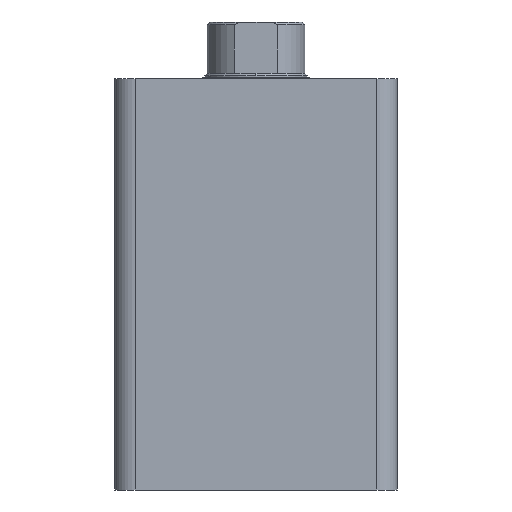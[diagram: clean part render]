
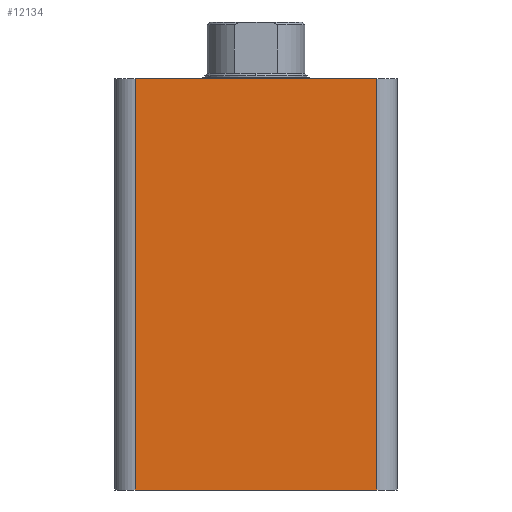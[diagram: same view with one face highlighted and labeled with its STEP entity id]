
A CAD part, front view. The second image highlights one B-rep face of the part: STEP entity #12134.
In plain terms, the highlighted planar face has unit normal (0, -1, 0).
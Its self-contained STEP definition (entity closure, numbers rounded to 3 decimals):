
#338 = LINE ( 'NONE', #3470, #4257 ) ;
#1013 = LINE ( 'NONE', #3908, #7379 ) ;
#1052 = EDGE_CURVE ( 'NONE', #3612, #11086, #2477, .T. ) ;
#1292 = ORIENTED_EDGE ( 'NONE', *, *, #11191, .T. ) ;
#1409 = DIRECTION ( 'NONE',  ( 1., 0., 0. ) ) ;
#1959 = DIRECTION ( 'NONE',  ( 1., 0., 0. ) ) ;
#2477 = LINE ( 'NONE', #4596, #10387 ) ;
#2894 = DIRECTION ( 'NONE',  ( 0., 0., -1. ) ) ;
#2923 = VECTOR ( 'NONE', #1959, 1000. ) ;
#3087 = LINE ( 'NONE', #7144, #2923 ) ;
#3108 = VERTEX_POINT ( 'NONE', #3329 ) ;
#3141 = VERTEX_POINT ( 'NONE', #4394 ) ;
#3263 = EDGE_CURVE ( 'NONE', #3141, #3612, #338, .T. ) ;
#3329 = CARTESIAN_POINT ( 'NONE',  ( 4., 0., 80. ) ) ;
#3470 = CARTESIAN_POINT ( 'NONE',  ( 0., 0., 0. ) ) ;
#3527 = DIRECTION ( 'NONE',  ( 0., 1., 0. ) ) ;
#3612 = VERTEX_POINT ( 'NONE', #9135 ) ;
#3908 = CARTESIAN_POINT ( 'NONE',  ( 4., 0., 80. ) ) ;
#4257 = VECTOR ( 'NONE', #1409, 1000. ) ;
#4394 = CARTESIAN_POINT ( 'NONE',  ( 4., 0., 0. ) ) ;
#4596 = CARTESIAN_POINT ( 'NONE',  ( 51., 0., 80. ) ) ;
#5637 = ORIENTED_EDGE ( 'NONE', *, *, #11942, .F. ) ;
#6041 = ORIENTED_EDGE ( 'NONE', *, *, #1052, .T. ) ;
#7144 = CARTESIAN_POINT ( 'NONE',  ( 0., 0., 80. ) ) ;
#7379 = VECTOR ( 'NONE', #2894, 1000. ) ;
#8853 = DIRECTION ( 'NONE',  ( 0., 0., 1. ) ) ;
#9135 = CARTESIAN_POINT ( 'NONE',  ( 51., 0., 0. ) ) ;
#9861 = ORIENTED_EDGE ( 'NONE', *, *, #3263, .T. ) ;
#10387 = VECTOR ( 'NONE', #8853, 1000. ) ;
#10993 = PLANE ( 'NONE',  #11858 ) ;
#11086 = VERTEX_POINT ( 'NONE', #12083 ) ;
#11191 = EDGE_CURVE ( 'NONE', #3108, #3141, #1013, .T. ) ;
#11454 = FACE_OUTER_BOUND ( 'NONE', #12508, .T. ) ;
#11858 = AXIS2_PLACEMENT_3D ( 'NONE', #12090, #3527, #12969 ) ;
#11942 = EDGE_CURVE ( 'NONE', #3108, #11086, #3087, .T. ) ;
#12083 = CARTESIAN_POINT ( 'NONE',  ( 51., 0., 80. ) ) ;
#12090 = CARTESIAN_POINT ( 'NONE',  ( 0., 0., 80. ) ) ;
#12134 = ADVANCED_FACE ( 'NONE', ( #11454 ), #10993, .F. ) ;
#12508 = EDGE_LOOP ( 'NONE', ( #9861, #6041, #5637, #1292 ) ) ;
#12969 = DIRECTION ( 'NONE',  ( 0., 0., 1. ) ) ;
